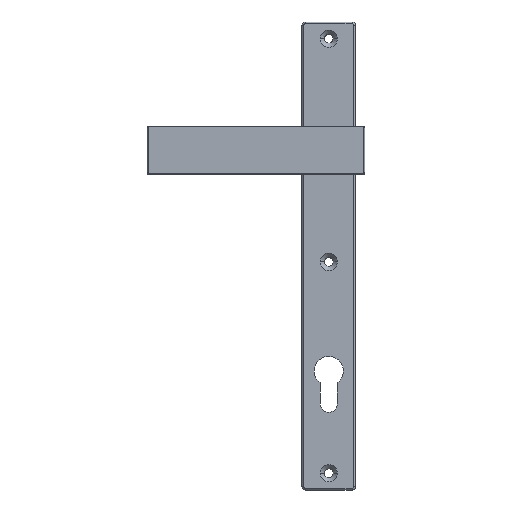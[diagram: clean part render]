
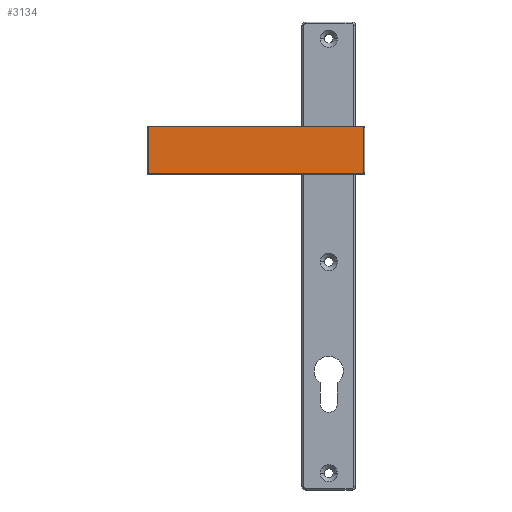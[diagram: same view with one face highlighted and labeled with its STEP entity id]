
A CAD part, top view. The second image highlights one B-rep face of the part: STEP entity #3134.
In plain terms, the highlighted planar face has unit normal (0, 0, 1) as drawn and (-1, 0, 0) by its records, which use the part's own axes.
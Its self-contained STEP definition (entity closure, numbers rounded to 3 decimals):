
#309 = DIRECTION ( 'NONE',  ( 0., 1., 0. ) ) ;
#312 = ORIENTED_EDGE ( 'NONE', *, *, #836, .T. ) ;
#390 = CARTESIAN_POINT ( 'NONE',  ( -5., 0., 0. ) ) ;
#486 = DIRECTION ( 'NONE',  ( -1., 0., 0. ) ) ;
#692 = CARTESIAN_POINT ( 'NONE',  ( -5., 21., -13.5 ) ) ;
#836 = EDGE_CURVE ( 'NONE', #890, #3503, #7873, .T. ) ;
#890 = VERTEX_POINT ( 'NONE', #5834 ) ;
#1376 = EDGE_CURVE ( 'NONE', #3503, #10207, #7549, .T. ) ;
#1431 = VERTEX_POINT ( 'NONE', #4552 ) ;
#1583 = CARTESIAN_POINT ( 'NONE',  ( -5., 21., 13.5 ) ) ;
#1688 = CARTESIAN_POINT ( 'NONE',  ( -5., 20.5, 13.5 ) ) ;
#1729 = DIRECTION ( 'NONE',  ( 0., 0., 1. ) ) ;
#1811 = PLANE ( 'NONE',  #6614 ) ;
#2272 = CARTESIAN_POINT ( 'NONE',  ( -5., -107.5, -13.5 ) ) ;
#2372 = DIRECTION ( 'NONE',  ( 0., -1., 0. ) ) ;
#2381 = EDGE_CURVE ( 'NONE', #1431, #7856, #2857, .T. ) ;
#2478 = AXIS2_PLACEMENT_3D ( 'NONE', #2272, #7882, #8677 ) ;
#2638 = FACE_OUTER_BOUND ( 'NONE', #4955, .T. ) ;
#2857 = CIRCLE ( 'NONE', #8730, 0.5 ) ;
#2995 = CARTESIAN_POINT ( 'NONE',  ( -5., -107.5, -14. ) ) ;
#3059 = CARTESIAN_POINT ( 'NONE',  ( -5., -107.5, -14. ) ) ;
#3134 = ADVANCED_FACE ( 'NONE', ( #2638 ), #1811, .T. ) ;
#3286 = LINE ( 'NONE', #8911, #4816 ) ;
#3503 = VERTEX_POINT ( 'NONE', #8347 ) ;
#3560 = CARTESIAN_POINT ( 'NONE',  ( -5., -107.5, 13.5 ) ) ;
#3561 = ORIENTED_EDGE ( 'NONE', *, *, #7403, .T. ) ;
#3672 = EDGE_CURVE ( 'NONE', #9889, #1431, #9489, .T. ) ;
#3678 = DIRECTION ( 'NONE',  ( 0., -1., 0. ) ) ;
#4221 = ORIENTED_EDGE ( 'NONE', *, *, #4394, .T. ) ;
#4290 = CARTESIAN_POINT ( 'NONE',  ( -5., 20.5, 14. ) ) ;
#4394 = EDGE_CURVE ( 'NONE', #4741, #890, #3286, .T. ) ;
#4405 = DIRECTION ( 'NONE',  ( -1., 0., 0. ) ) ;
#4552 = CARTESIAN_POINT ( 'NONE',  ( -5., 21., -13.5 ) ) ;
#4683 = ORIENTED_EDGE ( 'NONE', *, *, #1376, .T. ) ;
#4741 = VERTEX_POINT ( 'NONE', #5593 ) ;
#4816 = VECTOR ( 'NONE', #1729, 1000. ) ;
#4955 = EDGE_LOOP ( 'NONE', ( #4221, #312, #4683, #5631, #8774, #7125, #3561, #5405 ) ) ;
#5344 = CIRCLE ( 'NONE', #2478, 0.5 ) ;
#5405 = ORIENTED_EDGE ( 'NONE', *, *, #7376, .T. ) ;
#5503 = CIRCLE ( 'NONE', #10354, 0.5 ) ;
#5593 = CARTESIAN_POINT ( 'NONE',  ( -5., -108., -13.5 ) ) ;
#5631 = ORIENTED_EDGE ( 'NONE', *, *, #6828, .T. ) ;
#5834 = CARTESIAN_POINT ( 'NONE',  ( -5., -108., 13.5 ) ) ;
#6614 = AXIS2_PLACEMENT_3D ( 'NONE', #390, #8942, #8363 ) ;
#6625 = DIRECTION ( 'NONE',  ( 0., -1., 0. ) ) ;
#6639 = VERTEX_POINT ( 'NONE', #2995 ) ;
#6828 = EDGE_CURVE ( 'NONE', #10207, #9889, #5503, .T. ) ;
#6934 = CARTESIAN_POINT ( 'NONE',  ( -5., 20.5, -13.5 ) ) ;
#6969 = VECTOR ( 'NONE', #309, 1000. ) ;
#7125 = ORIENTED_EDGE ( 'NONE', *, *, #2381, .T. ) ;
#7354 = DIRECTION ( 'NONE',  ( -1., 0., 0. ) ) ;
#7376 = EDGE_CURVE ( 'NONE', #6639, #4741, #5344, .T. ) ;
#7403 = EDGE_CURVE ( 'NONE', #7856, #6639, #7989, .T. ) ;
#7549 = LINE ( 'NONE', #4290, #6969 ) ;
#7804 = DIRECTION ( 'NONE',  ( 0., 0., -1. ) ) ;
#7856 = VERTEX_POINT ( 'NONE', #9151 ) ;
#7873 = CIRCLE ( 'NONE', #9223, 0.5 ) ;
#7882 = DIRECTION ( 'NONE',  ( -1., 0., 0. ) ) ;
#7989 = LINE ( 'NONE', #3059, #8349 ) ;
#8347 = CARTESIAN_POINT ( 'NONE',  ( -5., -107.5, 14. ) ) ;
#8349 = VECTOR ( 'NONE', #2372, 1000. ) ;
#8363 = DIRECTION ( 'NONE',  ( 0., -1., 0. ) ) ;
#8625 = VECTOR ( 'NONE', #7804, 1000. ) ;
#8677 = DIRECTION ( 'NONE',  ( 0., -1., 0. ) ) ;
#8730 = AXIS2_PLACEMENT_3D ( 'NONE', #6934, #486, #3678 ) ;
#8774 = ORIENTED_EDGE ( 'NONE', *, *, #3672, .T. ) ;
#8911 = CARTESIAN_POINT ( 'NONE',  ( -5., -108., 13.5 ) ) ;
#8942 = DIRECTION ( 'NONE',  ( -1., 0., 0. ) ) ;
#9032 = DIRECTION ( 'NONE',  ( 0., -1., 0. ) ) ;
#9151 = CARTESIAN_POINT ( 'NONE',  ( -5., 20.5, -14. ) ) ;
#9223 = AXIS2_PLACEMENT_3D ( 'NONE', #3560, #4405, #9032 ) ;
#9489 = LINE ( 'NONE', #692, #8625 ) ;
#9521 = CARTESIAN_POINT ( 'NONE',  ( -5., 20.5, 14. ) ) ;
#9889 = VERTEX_POINT ( 'NONE', #1583 ) ;
#10207 = VERTEX_POINT ( 'NONE', #9521 ) ;
#10354 = AXIS2_PLACEMENT_3D ( 'NONE', #1688, #7354, #6625 ) ;
